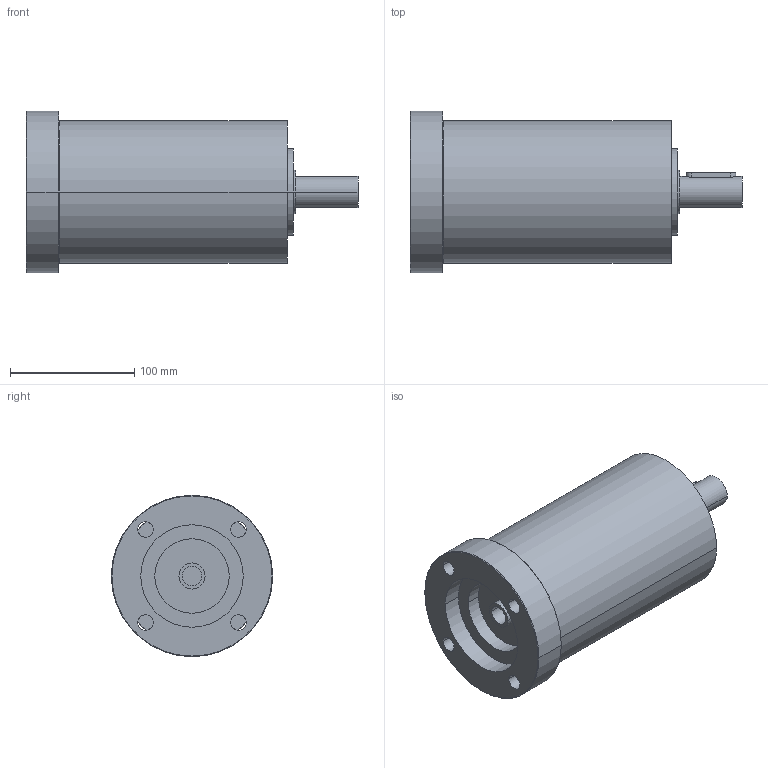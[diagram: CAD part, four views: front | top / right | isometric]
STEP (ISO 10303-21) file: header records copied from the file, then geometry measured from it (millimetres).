
FILE_DESCRIPTION(('CoCreate Modeling STEP Export'),'2;1');
FILE_NAME('GPR125_ig-48-64-80-100-140-196-245-343_25_B14_15.87_P21.stp','2014-08-26T14:21:16',(''),(''),'CoCreate Modeling STEP processor for AP214 (Solid Model)','CoCreate Modeling 16.00C 25-Feb-2009 (C) Parametric Technology GmbH','');
FILE_SCHEMA(('AUTOMOTIVE_DESIGN { 1 0 10303 214 1 1 1 1 }'));
Length unit declared in the file: millimetre
Products named in the file (2): GPR125_ig-48-64-80-100-140-196-245-343_25_B14_15.87_P21
Assembly tree (1 placements, depth 2):
  GPR125_ig-48-64-80-100-140-196-245-343_25_B14_15.87_P21
    GPR125_ig-48-64-80-100-140-196-245-343_25_B14_15.87_P21
Bounding box: 267.5 x 130 x 130 mm (x, y, z)
Volume: 2173726.3 mm3; surface area: 124376.5 mm2
Topology: 1 solids, 1 shells, 67 faces, 176 edges, 118 vertices
Faces by surface type: cylinder 38, plane 21, cone 8
Entity records: 1764 total; most frequent: ORIENTED_EDGE 348, CARTESIAN_POINT 328, DIRECTION 232, EDGE_CURVE 174, VERTEX_POINT 118, AXIS2_PLACEMENT_3D 90, EDGE_LOOP 84, FACE_OUTER_BOUND 67
